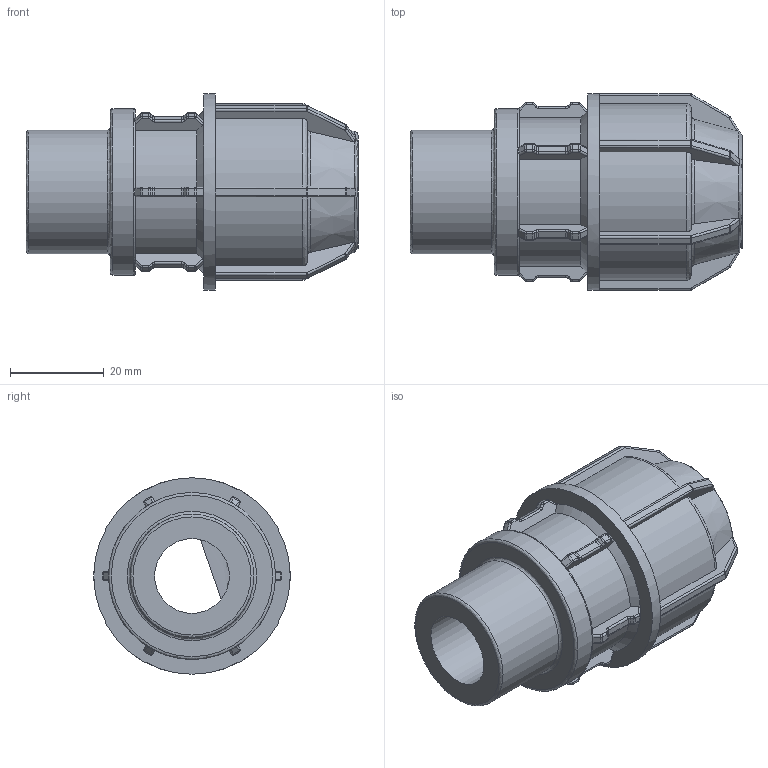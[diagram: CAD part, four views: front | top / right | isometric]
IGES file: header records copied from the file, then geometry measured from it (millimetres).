
Global section: file name: 140200020007.ipt; native system: Autodesk Inventor 2015; preprocessor: unknown; author: KIM; date: 20180409.130928; units: millimetre
Bounding box: 71 x 42 x 42 mm (x, y, z)
Volume: 40811.3 mm3; surface area: 15031.8 mm2
Topology: 1 solids, 1 shells, 470 faces, 1170 edges, 701 vertices
Faces by surface type: cylinder 171, plane 158, revolution 129, cone 12
Full cylindrical faces by diameter (mm): 26.441 x1, 35.695 x1, 42 x1
